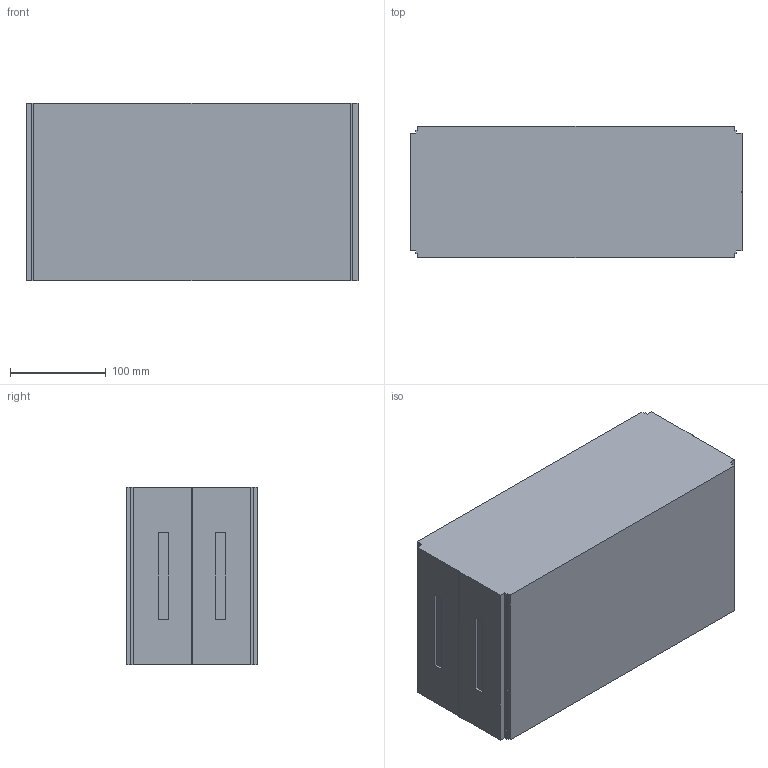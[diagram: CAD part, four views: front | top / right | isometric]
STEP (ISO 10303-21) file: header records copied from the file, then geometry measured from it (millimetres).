
FILE_DESCRIPTION (( 'STEP AP214' ), '1' );
FILE_NAME ('FS-MTC2-150-INOX Kettingmont. eenheid.350 Kettingmont.STEP', '2017-02-08T12:41:22', ( '' ), ( '' ), 'SwSTEP 2.0', 'SolidWorks 2016', '' );
FILE_SCHEMA (( 'AUTOMOTIVE_DESIGN' ));
Length unit declared in the file: millimetre
Products named in the file (1): FS-MTC2-150-INOX Kettingmont. eenheid.350 Kettingmont
Bounding box: 346 x 136.5 x 185 mm (x, y, z)
Volume: 8690788.5 mm3; surface area: 275342.2 mm2
Topology: 1 solids, 1 shells, 50 faces, 132 edges, 88 vertices
Faces by surface type: plane 50
Entity records: 1550 total; most frequent: CARTESIAN_POINT 271, ORIENTED_EDGE 264, DIRECTION 234, EDGE_CURVE 132, LINE 132, VECTOR 132, VERTEX_POINT 88, EDGE_LOOP 54
